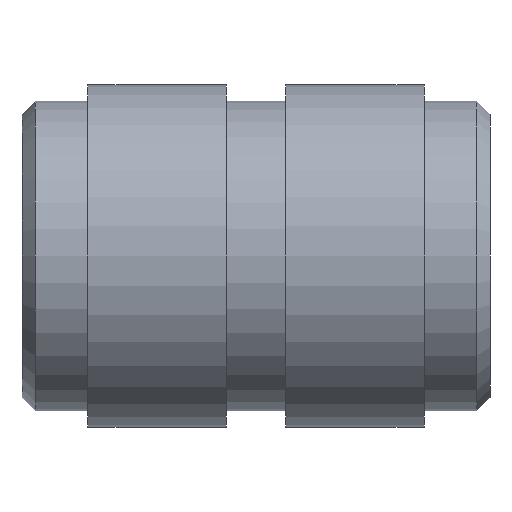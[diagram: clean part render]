
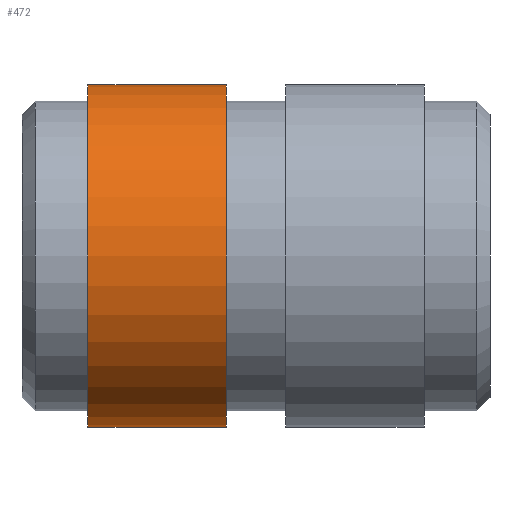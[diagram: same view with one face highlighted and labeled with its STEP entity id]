
A CAD part, front view. The second image highlights one B-rep face of the part: STEP entity #472.
In plain terms, the highlighted cylindrical face has radius 2.6 mm (diameter 5.2 mm), a partial arc.
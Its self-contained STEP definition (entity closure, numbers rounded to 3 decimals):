
#6 = CARTESIAN_POINT ( 'NONE',  ( 0.998, 0., 2.6 ) ) ;
#7 = EDGE_CURVE ( 'NONE', #164, #766, #388, .T. ) ;
#54 = CARTESIAN_POINT ( 'NONE',  ( -2.55, 0., -2.6 ) ) ;
#81 = AXIS2_PLACEMENT_3D ( 'NONE', #744, #267, #738 ) ;
#102 = VERTEX_POINT ( 'NONE', #415 ) ;
#113 = AXIS2_PLACEMENT_3D ( 'NONE', #489, #375, #256 ) ;
#164 = VERTEX_POINT ( 'NONE', #54 ) ;
#252 = ORIENTED_EDGE ( 'NONE', *, *, #7, .T. ) ;
#256 = DIRECTION ( 'NONE',  ( 0., 0., 1. ) ) ;
#267 = DIRECTION ( 'NONE',  ( -1., 0., 0. ) ) ;
#273 = LINE ( 'NONE', #6, #554 ) ;
#274 = VECTOR ( 'NONE', #323, 1000. ) ;
#323 = DIRECTION ( 'NONE',  ( 1., 0., 0. ) ) ;
#339 = DIRECTION ( 'NONE',  ( 1., 0., 0. ) ) ;
#340 = CARTESIAN_POINT ( 'NONE',  ( 0.998, 0., -2.6 ) ) ;
#375 = DIRECTION ( 'NONE',  ( -1., 0., 0. ) ) ;
#388 = LINE ( 'NONE', #340, #274 ) ;
#390 = CARTESIAN_POINT ( 'NONE',  ( 0.998, 0., 0. ) ) ;
#415 = CARTESIAN_POINT ( 'NONE',  ( -0.45, 0., 2.6 ) ) ;
#442 = EDGE_LOOP ( 'NONE', ( #478, #252, #578, #725 ) ) ;
#472 = ADVANCED_FACE ( 'NONE', ( #569 ), #504, .T. ) ;
#473 = VERTEX_POINT ( 'NONE', #561 ) ;
#474 = CIRCLE ( 'NONE', #113, 2.6 ) ;
#478 = ORIENTED_EDGE ( 'NONE', *, *, #486, .F. ) ;
#486 = EDGE_CURVE ( 'NONE', #164, #473, #754, .T. ) ;
#489 = CARTESIAN_POINT ( 'NONE',  ( -0.45, 0., 0. ) ) ;
#504 = CYLINDRICAL_SURFACE ( 'NONE', #648, 2.6 ) ;
#529 = EDGE_CURVE ( 'NONE', #473, #102, #273, .T. ) ;
#554 = VECTOR ( 'NONE', #339, 1000. ) ;
#561 = CARTESIAN_POINT ( 'NONE',  ( -2.55, 0., 2.6 ) ) ;
#569 = FACE_OUTER_BOUND ( 'NONE', #442, .T. ) ;
#578 = ORIENTED_EDGE ( 'NONE', *, *, #750, .T. ) ;
#630 = DIRECTION ( 'NONE',  ( 0., 0., 1. ) ) ;
#633 = DIRECTION ( 'NONE',  ( 1., 0., 0. ) ) ;
#648 = AXIS2_PLACEMENT_3D ( 'NONE', #390, #633, #630 ) ;
#655 = CARTESIAN_POINT ( 'NONE',  ( -0.45, 0., -2.6 ) ) ;
#725 = ORIENTED_EDGE ( 'NONE', *, *, #529, .F. ) ;
#738 = DIRECTION ( 'NONE',  ( 0., 0., 1. ) ) ;
#744 = CARTESIAN_POINT ( 'NONE',  ( -2.55, 0., 0. ) ) ;
#750 = EDGE_CURVE ( 'NONE', #766, #102, #474, .T. ) ;
#754 = CIRCLE ( 'NONE', #81, 2.6 ) ;
#766 = VERTEX_POINT ( 'NONE', #655 ) ;
